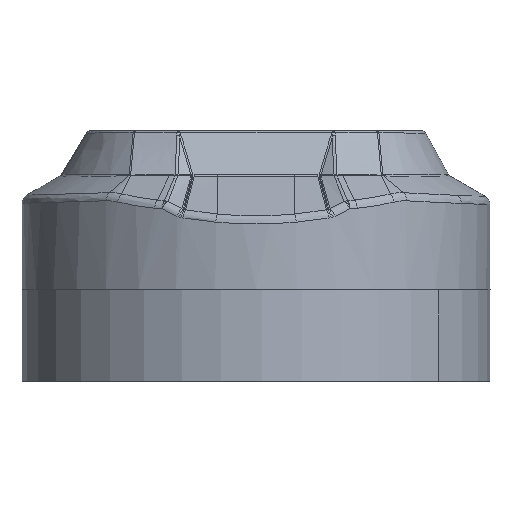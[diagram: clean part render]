
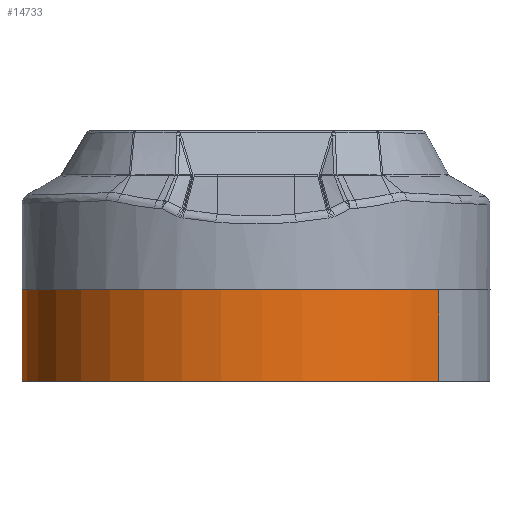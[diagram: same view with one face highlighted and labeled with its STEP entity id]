
A CAD part, front view. The second image highlights one B-rep face of the part: STEP entity #14733.
In plain terms, the highlighted cylindrical face has radius 50 mm (diameter 100 mm), a partial arc.
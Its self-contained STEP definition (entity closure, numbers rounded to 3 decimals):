
#453 = DIRECTION ( 'NONE',  ( 0., 0., 1. ) ) ;
#1634 = ORIENTED_EDGE ( 'NONE', *, *, #16191, .F. ) ;
#2849 = DIRECTION ( 'NONE',  ( 0., 0., 1. ) ) ;
#5426 = EDGE_CURVE ( 'NONE', #27214, #12325, #17236, .T. ) ;
#6465 = DIRECTION ( 'NONE',  ( 0., 0., -1. ) ) ;
#6485 = ORIENTED_EDGE ( 'NONE', *, *, #6816, .T. ) ;
#6816 = EDGE_CURVE ( 'NONE', #23052, #27214, #8995, .T. ) ;
#7076 = CARTESIAN_POINT ( 'NONE',  ( 50., 0., 247. ) ) ;
#7116 = FACE_OUTER_BOUND ( 'NONE', #13469, .T. ) ;
#8690 = VECTOR ( 'NONE', #2849, 1000. ) ;
#8995 = CIRCLE ( 'NONE', #16188, 50. ) ;
#9680 = CARTESIAN_POINT ( 'NONE',  ( 0., 0., 237.25 ) ) ;
#9829 = ORIENTED_EDGE ( 'NONE', *, *, #5426, .T. ) ;
#10689 = ORIENTED_EDGE ( 'NONE', *, *, #12617, .T. ) ;
#11862 = DIRECTION ( 'NONE',  ( 1., 0., 0. ) ) ;
#12325 = VERTEX_POINT ( 'NONE', #7076 ) ;
#12617 = EDGE_CURVE ( 'NONE', #12325, #15582, #23633, .T. ) ;
#13469 = EDGE_LOOP ( 'NONE', ( #1634, #6485, #9829, #10689 ) ) ;
#13563 = CARTESIAN_POINT ( 'NONE',  ( 0., 0., 227.5 ) ) ;
#14407 = CARTESIAN_POINT ( 'NONE',  ( -50., 0., 227.5 ) ) ;
#14733 = ADVANCED_FACE ( 'NONE', ( #7116 ), #18110, .T. ) ;
#15582 = VERTEX_POINT ( 'NONE', #17953 ) ;
#15772 = DIRECTION ( 'NONE',  ( 1., 0., 0. ) ) ;
#16188 = AXIS2_PLACEMENT_3D ( 'NONE', #13563, #453, #15772 ) ;
#16191 = EDGE_CURVE ( 'NONE', #23052, #15582, #28223, .T. ) ;
#17236 = LINE ( 'NONE', #26488, #22415 ) ;
#17953 = CARTESIAN_POINT ( 'NONE',  ( -50., 0., 247. ) ) ;
#18110 = CYLINDRICAL_SURFACE ( 'NONE', #26062, 50. ) ;
#18412 = DIRECTION ( 'NONE',  ( 0., 0., 1. ) ) ;
#19632 = CARTESIAN_POINT ( 'NONE',  ( 0., 0., 247. ) ) ;
#20013 = DIRECTION ( 'NONE',  ( 0., 0., 1. ) ) ;
#20293 = CARTESIAN_POINT ( 'NONE',  ( 50., 0., 227.5 ) ) ;
#21844 = DIRECTION ( 'NONE',  ( 1., 0., 0. ) ) ;
#22415 = VECTOR ( 'NONE', #20013, 1000. ) ;
#23052 = VERTEX_POINT ( 'NONE', #14407 ) ;
#23633 = CIRCLE ( 'NONE', #25416, 50. ) ;
#25416 = AXIS2_PLACEMENT_3D ( 'NONE', #19632, #6465, #21844 ) ;
#26062 = AXIS2_PLACEMENT_3D ( 'NONE', #9680, #18412, #11862 ) ;
#26488 = CARTESIAN_POINT ( 'NONE',  ( 50., 0., 237.25 ) ) ;
#26898 = CARTESIAN_POINT ( 'NONE',  ( -50., 0., 237.25 ) ) ;
#27214 = VERTEX_POINT ( 'NONE', #20293 ) ;
#28223 = LINE ( 'NONE', #26898, #8690 ) ;
